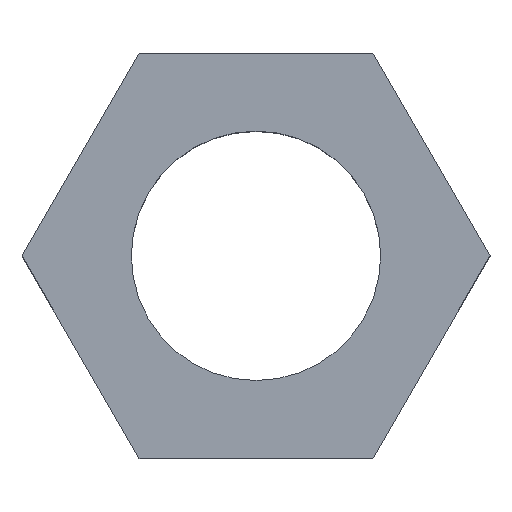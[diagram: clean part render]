
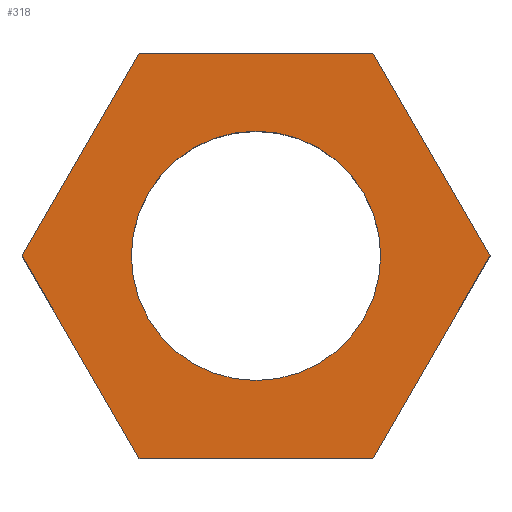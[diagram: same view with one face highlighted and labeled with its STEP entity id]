
A CAD part, top view. The second image highlights one B-rep face of the part: STEP entity #318.
In plain terms, the highlighted planar face has unit normal (0, 0, 1).
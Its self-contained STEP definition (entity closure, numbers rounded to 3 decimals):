
#7=CARTESIAN_POINT('',(7.506,0.0,178.5));
#8=CARTESIAN_POINT('',(3.753,6.5,178.5));
#9=CARTESIAN_POINT('',(-3.753,6.5,178.5));
#10=CARTESIAN_POINT('',(-7.506,0.,178.5));
#11=CARTESIAN_POINT('',(-3.753,-6.5,178.5));
#12=CARTESIAN_POINT('',(3.753,-6.5,178.5));
#14=CARTESIAN_POINT('',(-4.0,0.0,178.5));
#45=CARTESIAN_POINT('',(7.506,0.0,178.5));
#46=CARTESIAN_POINT('',(7.506,0.0,178.5));
#47=CARTESIAN_POINT('',(3.753,6.5,178.5));
#48=CARTESIAN_POINT('',(3.753,6.5,178.5));
#49=B_SPLINE_CURVE_WITH_KNOTS('',3,(#45,#46,#47,#48),.UNSPECIFIED.,.F.,.F.,(4,4),(0.,1.),.PIECEWISE_BEZIER_KNOTS.);
#50=CARTESIAN_POINT('',(3.753,6.5,178.5));
#51=CARTESIAN_POINT('',(3.753,6.5,178.5));
#52=CARTESIAN_POINT('',(-3.753,6.5,178.5));
#53=CARTESIAN_POINT('',(-3.753,6.5,178.5));
#54=B_SPLINE_CURVE_WITH_KNOTS('',3,(#50,#51,#52,#53),.UNSPECIFIED.,.F.,.F.,(4,4),(0.,1.),.PIECEWISE_BEZIER_KNOTS.);
#55=CARTESIAN_POINT('',(-3.753,6.5,178.5));
#56=CARTESIAN_POINT('',(-3.753,6.5,178.5));
#57=CARTESIAN_POINT('',(-7.506,0.,178.5));
#58=CARTESIAN_POINT('',(-7.506,0.,178.5));
#59=B_SPLINE_CURVE_WITH_KNOTS('',3,(#55,#56,#57,#58),.UNSPECIFIED.,.F.,.F.,(4,4),(0.,1.),.PIECEWISE_BEZIER_KNOTS.);
#60=CARTESIAN_POINT('',(-7.506,0.,178.5));
#61=CARTESIAN_POINT('',(-7.506,0.,178.5));
#62=CARTESIAN_POINT('',(-3.753,-6.5,178.5));
#63=CARTESIAN_POINT('',(-3.753,-6.5,178.5));
#64=B_SPLINE_CURVE_WITH_KNOTS('',3,(#60,#61,#62,#63),.UNSPECIFIED.,.F.,.F.,(4,4),(0.,1.),.PIECEWISE_BEZIER_KNOTS.);
#65=CARTESIAN_POINT('',(-3.753,-6.5,178.5));
#66=CARTESIAN_POINT('',(-3.753,-6.5,178.5));
#67=CARTESIAN_POINT('',(3.753,-6.5,178.5));
#68=CARTESIAN_POINT('',(3.753,-6.5,178.5));
#69=B_SPLINE_CURVE_WITH_KNOTS('',3,(#65,#66,#67,#68),.UNSPECIFIED.,.F.,.F.,(4,4),(0.,1.),.PIECEWISE_BEZIER_KNOTS.);
#70=CARTESIAN_POINT('',(3.753,-6.5,178.5));
#71=CARTESIAN_POINT('',(3.753,-6.5,178.5));
#72=CARTESIAN_POINT('',(7.506,0.0,178.5));
#73=CARTESIAN_POINT('',(7.506,0.0,178.5));
#74=B_SPLINE_CURVE_WITH_KNOTS('',3,(#70,#71,#72,#73),.UNSPECIFIED.,.F.,.F.,(4,4),(0.,1.),.PIECEWISE_BEZIER_KNOTS.);
#98=CARTESIAN_POINT('',(0.0,0.0,178.5));
#99=DIRECTION('',(0.0,0.0,1.0));
#100=DIRECTION('',(1.0,0.0,0.0));
#101=AXIS2_PLACEMENT_3D('',#98,#99,#100);
#102=CIRCLE('',#101,4.0);
#103=CARTESIAN_POINT('',(0.0,0.0,178.5));
#104=DIRECTION('',(0.0,0.0,1.0));
#105=DIRECTION('',(1.0,0.0,0.0));
#106=AXIS2_PLACEMENT_3D('',#103,#104,#105);
#107=PLANE('',#106);
#226=VERTEX_POINT('',#7);
#227=VERTEX_POINT('',#8);
#228=VERTEX_POINT('',#9);
#229=VERTEX_POINT('',#10);
#230=VERTEX_POINT('',#11);
#231=VERTEX_POINT('',#12);
#233=VERTEX_POINT('',#14);
#240=EDGE_CURVE('',#226,#227,#49,.T.);
#241=EDGE_CURVE('',#227,#228,#54,.T.);
#242=EDGE_CURVE('',#228,#229,#59,.T.);
#243=EDGE_CURVE('',#229,#230,#64,.T.);
#244=EDGE_CURVE('',#230,#231,#69,.T.);
#245=EDGE_CURVE('',#231,#226,#74,.T.);
#253=EDGE_CURVE('',#233,#233,#102,.T.);
#254=ORIENTED_EDGE('',*,*,#240,.T.);
#255=ORIENTED_EDGE('',*,*,#241,.T.);
#256=ORIENTED_EDGE('',*,*,#242,.T.);
#257=ORIENTED_EDGE('',*,*,#243,.T.);
#258=ORIENTED_EDGE('',*,*,#244,.T.);
#259=ORIENTED_EDGE('',*,*,#245,.T.);
#260=ORIENTED_EDGE('',*,*,#253,.F.);
#294=EDGE_LOOP('',(#254,#255,#256,#257,#258,#259));
#295=EDGE_LOOP('',(#260));
#306=FACE_OUTER_BOUND('',#294,.T.);
#307=FACE_BOUND('',#295,.T.);
#318=ADVANCED_FACE('',(#306,#307),#107,.T.);
